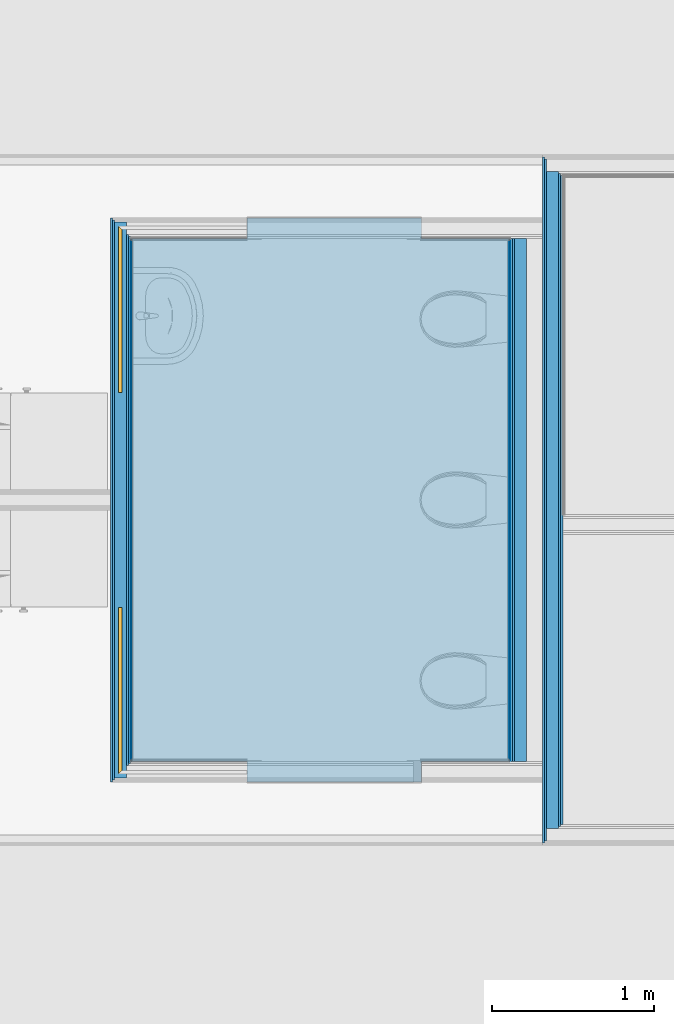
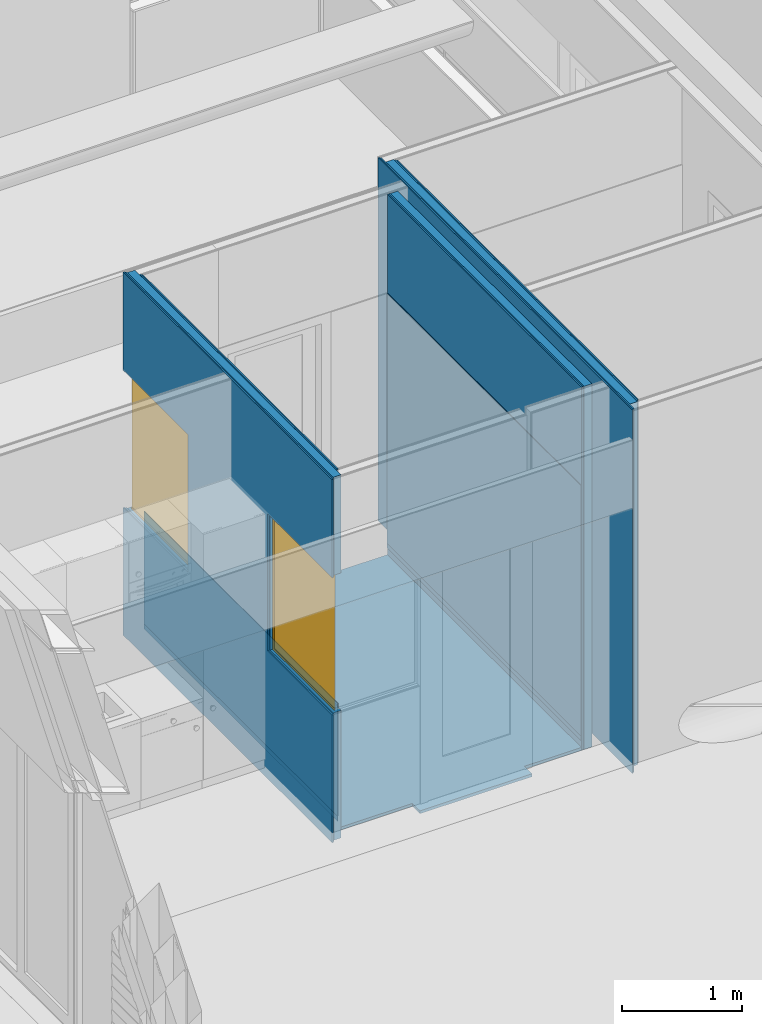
# One storey, part 54 of 165: 18 building element parts, 2 doors, 2 openings, 6 elements without a shape of their own.
"""IFC2X3 building model written with IfcOpenShell, lengths in millimetres."""

from ifc_helpers import new_model, entity, si_unit, converted_unit, derived_unit, money_unit, direction, frame, origin_with_axes, place, context, subcontext, project, spatial, open_shell, faceted_brep, surface_model, material, type_object, element, fill, aggregate, save


model = new_model("IFC2X3")

# Units and contexts
model_context = context("Model", 3, precision=0.01, world=origin_with_axes(), true_north=direction((0.0, 1.0)))
body_context = subcontext(model_context, "Body", "Model", "MODEL_VIEW")
ifc_project = project(units=[si_unit("LENGTHUNIT", "METRE", prefix="MILLI"), si_unit("AREAUNIT", "SQUARE_METRE"), si_unit("VOLUMEUNIT", "CUBIC_METRE"), converted_unit("PLANEANGLEUNIT", "DEGREE", entity("IfcPlaneAngleMeasure", 0.0174532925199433), si_unit("PLANEANGLEUNIT", "RADIAN"), dimensions=[0, 0, 0, 0, 0, 0, 0]), money_unit("EUR"), converted_unit("TIMEUNIT", "Year", entity("IfcTimeMeasure", 31556926.0), si_unit("TIMEUNIT", "SECOND"), dimensions=[0, 0, 1, 0, 0, 0, 0]), si_unit("MASSUNIT", "GRAM", prefix="KILO"), si_unit("THERMODYNAMICTEMPERATUREUNIT", "DEGREE_CELSIUS"), si_unit("LUMINOUSINTENSITYUNIT", "LUMEN"), si_unit("ENERGYUNIT", "JOULE", prefix="MEGA"), derived_unit("THERMALCONDUCTANCEUNIT", [(si_unit("POWERUNIT", "WATT"), 1), (si_unit("LENGTHUNIT", "METRE"), -1), (si_unit("THERMODYNAMICTEMPERATUREUNIT", "KELVIN"), -1)]), derived_unit("SPECIFICHEATCAPACITYUNIT", [(si_unit("ENERGYUNIT", "JOULE"), 1), (si_unit("MASSUNIT", "GRAM", prefix="KILO"), -1), (si_unit("THERMODYNAMICTEMPERATUREUNIT", "KELVIN"), -1)]), derived_unit("MASSDENSITYUNIT", [(si_unit("MASSUNIT", "GRAM", prefix="KILO"), 1), (si_unit("VOLUMEUNIT", "CUBIC_METRE"), -1)])], contexts=[model_context])

# Site, building, storey
site_placement = place(None, origin_with_axes())
site = spatial("IfcSite", under=ifc_project, at=site_placement, Name="Site", CompositionType="ELEMENT")
building_placement = place(site_placement, origin_with_axes())
building = spatial("IfcBuilding", under=site, at=building_placement, Name="Naam gebouw", CompositionType="ELEMENT")
storey_placement = place(building_placement, origin_with_axes())
storey = spatial("IfcBuildingStorey", under=building, at=storey_placement, Name="Begane grond", CompositionType="ELEMENT", Elevation=0.0)

# Door
door_style = type_object("IfcDoorStyle", Name="R1 26", ConstructionType="NOTDEFINED", OperationType="SINGLE_SWING_RIGHT", ParameterTakesPrecedence=False, Sizeable=False)
proxy_2_placement = place(storey_placement, frame((3250.000077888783, 13115.00069798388, -100.0), z_axis=(0.0, 0.0, 1.0), x_axis=(-4.56279063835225e-06, -0.9999999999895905, 0.0)))
opening_2_placement = place(proxy_2_placement, frame((2915.000535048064, 0.0, 1300.0), z_axis=(0.0, 0.0, 1.0), x_axis=(1.0, 0.0, 0.0)))
door_1_placement = place(opening_2_placement, frame((505.0000000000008, 0.0, 0.0), z_axis=(0.0, 0.0, 1.0), x_axis=(-1.0, 0.0, 0.0)))
door_1 = element("IfcDoor", 1, at=door_1_placement, inside=storey, type_object=door_style, Name="_C.03", ObjectType="DOOR", OverallHeight=1400.0, OverallWidth=1010.0, context=body_context, shape_type="SurfaceModel", body=[
    faceted_brep([(989.9999999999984, -69.99999999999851, 1380.0), (1009.999999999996, -69.99999999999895, 1380.0), (1009.999999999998, -49.99999999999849, 1380.0), (989.9999999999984, -49.99999999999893, 1380.0), (989.9999999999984, -69.99999999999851, 20.00000000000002), (1009.999999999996, -69.99999999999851, 20.00000000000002), (1009.999999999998, -49.99999999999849, 20.00000000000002), (989.9999999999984, -49.99999999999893, 20.00000000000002)], [[[0, 1, 2, 3]], [[0, 4, 5, 1]], [[1, 5, 6, 2]], [[3, 2, 6, 7]], [[4, 0, 3, 7]], [[5, 4, 7, 6]]]),
    faceted_brep([(-20.00000000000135, -49.99999999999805, 0.0), (0.0, -69.99999999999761, 0.0), (0.0, -69.99999999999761, 20.00000000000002), (-20.00000000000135, -49.99999999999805, 20.00000000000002), (1009.999999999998, -49.99999999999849, 0.0), (1009.999999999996, -69.99999999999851, 0.0), (989.9999999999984, -69.99999999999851, 20.00000000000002), (1009.999999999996, -69.99999999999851, 20.00000000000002), (989.9999999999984, -49.99999999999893, 20.00000000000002), (1009.999999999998, -49.99999999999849, 20.00000000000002)], [[[0, 1, 2, 3]], [[1, 0, 4, 5]], [[6, 2, 1, 5, 7]], [[2, 6, 8, 3]], [[0, 3, 8, 9, 4]], [[7, 5, 4, 9]], [[8, 6, 7, 9]]]),
    faceted_brep([(-20.00000000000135, -49.99999999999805, 1400.0), (-20.00000000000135, -49.99999999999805, 1380.0), (0.0, -69.99999999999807, 1380.0), (0.0, -69.99999999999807, 1400.0), (1009.999999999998, -49.99999999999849, 1400.0), (1009.999999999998, -49.99999999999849, 1380.0), (989.9999999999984, -49.99999999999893, 1380.0), (989.9999999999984, -69.99999999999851, 1380.0), (1009.999999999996, -69.99999999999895, 1380.0), (1009.999999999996, -69.99999999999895, 1400.0)], [[[0, 1, 2, 3]], [[1, 0, 4, 5, 6]], [[7, 2, 1, 6]], [[2, 7, 8, 9, 3]], [[0, 3, 9, 4]], [[9, 8, 5, 4]], [[8, 7, 6, 5]]]),
    surface_model("IfcShellBasedSurfaceModel", [(989.9999999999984, -64.99999999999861, 20.00000000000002), (989.9999999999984, -64.99999999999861, 1380.0), (-5.000000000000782, -64.99999999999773, 1380.0), (-5.000000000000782, -64.99999999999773, 20.00000000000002)], [open_shell([[[0, 1, 2, 3]]])]),
    surface_model("IfcShellBasedSurfaceModel", [(989.9999999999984, -54.99999999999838, 20.00000000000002), (-15.00000000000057, -54.99999999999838, 20.00000000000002), (-15.00000000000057, -54.99999999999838, 1380.0), (989.9999999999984, -54.99999999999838, 1380.0)], [open_shell([[[0, 1, 2, 3]]])]),
])

opening_1_placement = place(proxy_2_placement, frame((574.9994649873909, 0.0, 1300.0), z_axis=(0.0, 0.0, 1.0), x_axis=(1.0, 0.0, 0.0)))
door_2_placement = place(opening_1_placement, frame((504.999999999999, 0.0, 0.0), z_axis=(0.0, 0.0, 1.0), x_axis=(-1.0, 0.0, 0.0)))
door_2 = element("IfcDoor", 2, at=door_2_placement, inside=storey, type_object=door_style, Name="_C.03", ObjectType="DOOR", OverallHeight=1400.0, OverallWidth=1010.0, context=body_context, shape_type="SurfaceModel", body=[
    faceted_brep([(19.99999999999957, -69.99999999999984, 1380.0), (19.99999999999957, -49.99999999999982, 1380.0), (0.0, -49.99999999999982, 1380.0), (0.0, -69.99999999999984, 1380.0), (19.99999999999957, -69.99999999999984, 20.00000000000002), (19.99999999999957, -49.99999999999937, 20.00000000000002), (0.0, -49.99999999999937, 20.00000000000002), (0.0, -69.9999999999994, 20.00000000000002)], [[[0, 1, 2, 3]], [[4, 5, 1, 0]], [[1, 5, 6, 2]], [[3, 2, 6, 7]], [[0, 3, 7, 4]], [[7, 6, 5, 4]]]),
    faceted_brep([(0.0, -49.99999999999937, 20.00000000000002), (0.0, -69.9999999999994, 20.00000000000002), (19.99999999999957, -69.99999999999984, 20.00000000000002), (19.99999999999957, -49.99999999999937, 20.00000000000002), (0.0, -69.9999999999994, 0.0), (0.0, -49.99999999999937, 0.0), (1009.999999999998, -70.00000000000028, 0.0), (1009.999999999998, -70.00000000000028, 20.00000000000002), (1029.999999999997, -49.99999999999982, 20.00000000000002), (1029.999999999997, -49.99999999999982, 0.0)], [[[0, 1, 2, 3]], [[4, 1, 0, 5]], [[1, 4, 6, 7, 2]], [[2, 7, 8, 3]], [[5, 0, 3, 8, 9]], [[6, 4, 5, 9]], [[7, 6, 9, 8]]]),
    faceted_brep([(0.0, -49.99999999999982, 1380.0), (19.99999999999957, -49.99999999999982, 1380.0), (19.99999999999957, -69.99999999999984, 1380.0), (0.0, -69.99999999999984, 1380.0), (0.0, -49.99999999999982, 1400.0), (1029.999999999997, -50.00000000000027, 1400.0), (1029.999999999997, -50.00000000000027, 1380.0), (1010.0, -70.00000000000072, 1380.0), (0.0, -69.99999999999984, 1400.0), (1010.0, -70.00000000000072, 1400.0)], [[[0, 1, 2, 3]], [[0, 4, 5, 6, 1]], [[7, 2, 1, 6]], [[8, 3, 2, 7, 9]], [[3, 8, 4, 0]], [[4, 8, 9, 5]], [[9, 7, 6, 5]]]),
    surface_model("IfcShellBasedSurfaceModel", [(19.99999999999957, -64.9999999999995, 20.00000000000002), (1014.999999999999, -65.0000000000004, 20.00000000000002), (1014.999999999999, -65.0000000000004, 1380.0), (19.99999999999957, -64.99999999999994, 1380.0)], [open_shell([[[0, 1, 2, 3]]])]),
    surface_model("IfcShellBasedSurfaceModel", [(19.99999999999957, -54.99999999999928, 20.00000000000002), (19.99999999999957, -54.99999999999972, 1380.0), (1025.0, -55.00000000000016, 1380.0), (1025.0, -55.00000000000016, 20.00000000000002)], [open_shell([[[0, 1, 2, 3]]])]),
])

# Proxy, building element parts
building_element_proxy_type_1 = type_object("IfcBuildingElementProxyType", Name="22 Metal stud 125 gips 125", PredefinedType="NOTDEFINED")
proxy_1_placement = place(storey_placement, frame((5924.999597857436, 9234.99995614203, -100.0), z_axis=(0.0, 0.0, 1.0), x_axis=(0.0, 1.0, 0.0)))
proxy_1 = element("IfcBuildingElementProxy", 3, at=proxy_1_placement, inside=storey, type_object=building_element_proxy_type_1, Name="_Wand-x")
ifc_material_1 = material(Name="Gipsplaat")
building_element_part_1_placement = place(proxy_1_placement, origin_with_axes())
building_element_part_1 = element("IfcBuildingElementPart", 4, at=building_element_part_1_placement, material=ifc_material_1, Name="Gipsplaat", context=body_context, shape_type="Brep", body=[
    faceted_brep([(4257.50031846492, 0.0, 3700.0), (12.49999999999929, 0.0, 3700.0), (12.50000103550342, -12.50000000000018, 3700.0), (4257.500317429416, -12.50000000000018, 3700.0), (4257.50031846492, 0.0, 0.0), (12.49999999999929, 0.0, 0.0), (12.50000103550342, -12.50000000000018, 0.0), (4257.500317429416, -12.50000000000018, 0.0)], [[[0, 1, 2, 3]], [[4, 5, 1, 0]], [[2, 1, 5, 6]], [[3, 2, 6, 7]], [[3, 7, 4, 0]], [[7, 6, 5, 4]]]),
])
building_element_part_2_placement = place(proxy_1_placement, origin_with_axes())
building_element_part_2 = element("IfcBuildingElementPart", 5, at=building_element_part_2_placement, material=ifc_material_1, Name="Gipsplaat", context=body_context, shape_type="Brep", body=[
    faceted_brep([(4157.500310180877, -99.99999999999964, 3700.0), (112.5000082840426, -99.99999999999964, 3700.0), (112.5000093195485, -112.4999999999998, 3700.0), (4157.500309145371, -112.4999999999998, 3700.0), (4157.500310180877, -99.99999999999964, 0.0), (112.5000082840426, -99.99999999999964, 0.0), (112.5000093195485, -112.4999999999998, 0.0), (4157.500309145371, -112.4999999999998, 0.0)], [[[0, 1, 2, 3]], [[4, 5, 1, 0]], [[2, 1, 5, 6]], [[3, 2, 6, 7]], [[3, 7, 4, 0]], [[7, 6, 5, 4]]]),
])
building_element_part_3_placement = place(proxy_1_placement, origin_with_axes())
building_element_part_3 = element("IfcBuildingElementPart", 6, at=building_element_part_3_placement, material=ifc_material_1, Name="Gipsplaat", context=body_context, shape_type="Brep", body=[
    faceted_brep([(4245.000317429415, -12.50000000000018, 3700.0), (25.00000103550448, -12.50000000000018, 3700.0), (25.00000207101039, -24.99999999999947, 3700.0), (4245.000316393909, -24.99999999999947, 3700.0), (4245.000317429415, -12.50000000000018, 0.0), (25.00000103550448, -12.50000000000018, 0.0), (25.00000207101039, -25.00000000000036, 0.0), (4245.000316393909, -25.00000000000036, 0.0)], [[[0, 1, 2, 3]], [[4, 5, 1, 0]], [[2, 1, 5, 6]], [[3, 2, 6, 7]], [[3, 7, 4, 0]], [[7, 6, 5, 4]]]),
])
ifc_material_2 = material(Name="ALG - LICHTE SCHEIDINGSWAND")
building_element_part_4_placement = place(proxy_1_placement, origin_with_axes())
building_element_part_4 = element("IfcBuildingElementPart", 7, at=building_element_part_4_placement, material=ifc_material_2, Name="ALG - LICHTE SCHEIDINGSWAND", context=body_context, shape_type="Brep", body=[
    faceted_brep([(4170.000316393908, -24.99999999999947, 3700.0), (100.0000020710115, -24.99999999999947, 3700.0), (100.0000082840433, -99.99999999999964, 3700.0), (4170.000310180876, -99.99999999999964, 3700.0), (4170.000316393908, -25.00000000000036, 0.0), (100.0000020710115, -25.00000000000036, 0.0), (100.0000082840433, -99.99999999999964, 0.0), (4170.000310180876, -99.99999999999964, 0.0)], [[[0, 1, 2, 3]], [[4, 5, 1, 0]], [[2, 1, 5, 6]], [[3, 2, 6, 7]], [[3, 7, 4, 0]], [[7, 6, 5, 4]]]),
])
building_element_part_5_placement = place(proxy_1_placement, origin_with_axes())
building_element_part_5 = element("IfcBuildingElementPart", 8, at=building_element_part_5_placement, material=ifc_material_1, Name="Gipsplaat", context=body_context, shape_type="Brep", body=[
    faceted_brep([(4145.00030914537, -112.4999999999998, 3700.0), (125.0000093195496, -112.4999999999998, 3700.0), (125.0000103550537, -125.0, 3700.0), (4145.000308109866, -125.0, 3700.0), (4145.00030914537, -112.4999999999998, 0.0), (125.0000093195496, -112.4999999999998, 0.0), (125.0000103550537, -125.0, 0.0), (4145.000308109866, -125.0, 0.0)], [[[0, 1, 2, 3]], [[4, 5, 1, 0]], [[2, 1, 5, 6]], [[3, 2, 6, 7]], [[3, 7, 4, 0]], [[7, 6, 5, 4]]]),
])
aggregate(proxy_1, [building_element_part_1, building_element_part_2, building_element_part_3, building_element_part_4, building_element_part_5])

# Proxy, opening
proxy_2 = element("IfcBuildingElementProxy", 9, at=proxy_2_placement, inside=storey, type_object=building_element_proxy_type_1, Name="_Wand-x")
opening_1 = element("IfcOpeningElement", 10, at=opening_1_placement, cuts=proxy_2, Name="_C.03", context=body_context, shape_type="Brep", body=[
    faceted_brep([(504.999999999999, 49.99999999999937, 1400.0), (-524.9996852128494, 49.99999999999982, 1400.0), (-574.9999999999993, -0.0005350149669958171, 1400.0), (-575.000000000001, -1.015924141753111, 1400.0), (504.999999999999, -1.015924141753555, 1400.0), (504.999999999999, 126.015924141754, 1400.0), (-448.9840958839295, 126.0159241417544, 1400.0), (-448.9840958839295, 126.0159241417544, 0.0), (-524.9996852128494, 49.99999999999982, 0.0), (-574.9999999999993, -0.0005350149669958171, 0.0), (-575.000000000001, -1.015924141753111, 0.0), (504.999999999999, -1.015924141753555, 0.0), (504.999999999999, 49.99999999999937, 0.0), (504.999999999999, 126.015924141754, 0.0)], [[[0, 1, 2, 3, 4]], [[1, 0, 5, 6]], [[2, 1, 6, 7, 8, 9]], [[9, 10, 3, 2]], [[3, 10, 11, 4]], [[12, 0, 4, 11]], [[0, 12, 13, 5]], [[5, 13, 7, 6]], [[12, 8, 7, 13]], [[8, 12, 11, 10, 9]]]),
])

fill(opening_1, door_2)

# Opening
opening_2 = element("IfcOpeningElement", 11, at=opening_2_placement, cuts=proxy_2, Name="_C.03", context=body_context, shape_type="Brep", body=[
    faceted_brep([(524.9997729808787, 49.99999999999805, 1400.0), (-504.999999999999, 49.99999999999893, 1400.0), (-504.999999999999, -1.015924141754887, 1400.0), (575.000000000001, -1.015924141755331, 1400.0), (574.9999999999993, -3.396325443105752e-06, 1400.0), (448.9835088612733, 126.0159241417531, 1400.0), (-504.999999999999, 126.015924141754, 1400.0), (-504.999999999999, 49.99999999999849, 0.0), (-504.999999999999, -1.015924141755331, 0.0), (575.000000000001, -1.015924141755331, 0.0), (574.9999999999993, -3.396325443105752e-06, 0.0), (524.9997729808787, 49.99999999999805, 0.0), (448.9835088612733, 126.0159241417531, 0.0), (-504.999999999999, 126.0159241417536, 0.0)], [[[0, 1, 2, 3, 4]], [[1, 0, 5, 6]], [[1, 7, 8, 2]], [[2, 8, 9, 3]], [[4, 3, 9, 10]], [[4, 10, 11, 12, 5, 0]], [[12, 13, 6, 5]], [[7, 1, 6, 13]], [[7, 11, 10, 9, 8]], [[11, 7, 13, 12]]]),
])

fill(opening_2, door_1)

# Building element part
building_element_part_6_placement = place(proxy_2_placement, origin_with_axes())
building_element_part_6 = element("IfcBuildingElementPart", 12, at=building_element_part_6_placement, material=ifc_material_1, Name="Gipsplaat", context=body_context, shape_type="Brep", body=[
    faceted_brep([(1079.99946498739, 124.9999895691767, 1300.0), (1079.99946498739, 124.9999895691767, 2700.0), (124.9994390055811, 124.9999895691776, 2700.0), (112.4994494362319, 125.0, 2700.0), (112.4994494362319, 125.0, 3700.0), (3377.499972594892, 124.9999999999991, 3700.0), (3377.499972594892, 124.9999999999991, 2700.0), (3364.999983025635, 124.9999895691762, 2700.0), (2410.000535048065, 124.9999895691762, 2700.0), (2410.000535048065, 124.9999895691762, 1300.0), (3364.999983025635, 124.9999895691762, 1300.0), (3377.499972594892, 124.9999999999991, 1300.0), (3377.499972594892, 124.9999999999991, 0.0), (112.4994494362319, 125.0, 0.0), (112.4994494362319, 125.0, 1300.0), (124.9994390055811, 124.9999895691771, 1300.0), (1079.99946498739, 112.4999999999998, 1300.0), (1079.99946498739, 112.5000000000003, 2700.0), (112.4995044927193, 112.4999999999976, 2700.0), (112.4995044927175, 112.4999999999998, 3700.0), (3377.500028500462, 112.4999999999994, 3700.0), (3377.500028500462, 112.4999999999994, 2700.0), (2410.000535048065, 112.4999999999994, 2700.0), (2410.000535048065, 112.4999999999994, 1300.0), (3377.500028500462, 112.4999999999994, 1300.0), (3377.500028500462, 112.4999999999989, 0.0), (112.4995044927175, 112.4999999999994, 0.0), (112.4995044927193, 112.4999999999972, 1300.0)], [[[0, 1, 2, 3, 4, 5, 6, 7, 8, 9, 10, 11, 12, 13, 14, 15]], [[1, 0, 16, 17]], [[2, 1, 17, 18, 3]], [[3, 18, 19, 4]], [[20, 5, 4, 19]], [[21, 6, 5, 20]], [[21, 22, 8, 7, 6]], [[9, 8, 22, 23]], [[10, 9, 23, 24, 11]], [[11, 24, 25, 12]], [[12, 25, 26, 13]], [[27, 14, 13, 26]], [[27, 16, 0, 15, 14]], [[16, 27, 26, 25, 24, 23, 22, 21, 20, 19, 18, 17]]]),
])

building_element_part_7_placement = place(proxy_2_placement, origin_with_axes())
building_element_part_7 = element("IfcBuildingElementPart", 13, at=building_element_part_7_placement, material=ifc_material_2, Name="ALG - LICHTE SCHEIDINGSWAND", context=body_context, shape_type="Brep", body=[
    faceted_brep([(1079.99946498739, 99.99999999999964, 1300.0), (1079.99946498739, 99.99999999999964, 2700.0), (49.99955954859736, 100.0000000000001, 2700.0), (24.99955954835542, 100.0000000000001, 2700.0), (24.99955954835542, 100.0000000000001, 3700.0), (3465.000084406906, 99.99999999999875, 3700.0), (3465.000084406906, 99.99999999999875, 2700.0), (3440.000075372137, 99.9999999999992, 2700.0), (2410.000535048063, 99.99999999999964, 2700.0), (2410.000535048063, 99.9999999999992, 1300.0), (3440.000075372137, 99.99999999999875, 1300.0), (3465.000084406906, 99.99999999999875, 1300.0), (3465.000084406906, 99.99999999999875, 0.0), (24.99955954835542, 100.0000000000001, 0.0), (24.99955954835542, 100.0000000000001, 1300.0), (49.99955954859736, 100.0000000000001, 1300.0), (1079.99946498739, 49.99999999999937, 1300.0), (1079.99946498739, 49.99999999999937, 2700.0), (49.99977977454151, 49.99999999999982, 2700.0), (1079.99946498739, 24.99999999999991, 2700.0), (24.99988988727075, 24.99999999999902, 2700.0), (24.99988988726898, 25.00000000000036, 3700.0), (3465.000419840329, 24.99999999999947, 3700.0), (3465.000419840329, 24.99999999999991, 2700.0), (2410.000535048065, 24.99999999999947, 2700.0), (2410.000535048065, 49.99999999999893, 2700.0), (3440.000308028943, 49.99999999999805, 2700.0), (2410.000535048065, 49.99999999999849, 1300.0), (3440.000308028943, 49.99999999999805, 1300.0), (2410.000535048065, 24.99999999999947, 1300.0), (3465.000419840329, 25.00000000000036, 1300.0), (3465.000419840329, 24.99999999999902, 0.0), (24.99988988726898, 24.99999999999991, 0.0), (24.99988988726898, 24.99999999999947, 1300.0), (1079.99946498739, 24.99999999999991, 1300.0), (49.99977977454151, 49.99999999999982, 1300.0)], [[[0, 1, 2, 3, 4, 5, 6, 7, 8, 9, 10, 11, 12, 13, 14, 15]], [[1, 0, 16, 17]], [[2, 1, 17, 18]], [[18, 17, 19, 20, 3, 2]], [[3, 20, 21, 4]], [[22, 5, 4, 21]], [[23, 6, 5, 22]], [[23, 24, 25, 26, 7, 6]], [[26, 25, 8, 7]], [[9, 8, 25, 27]], [[9, 27, 28, 10]], [[28, 27, 29, 30, 11, 10]], [[11, 30, 31, 12]], [[12, 31, 32, 13]], [[33, 14, 13, 32]], [[33, 34, 16, 35, 15, 14]], [[35, 16, 0, 15]], [[34, 19, 17, 16]], [[34, 33, 32, 31, 30, 29, 24, 23, 22, 21, 20, 19]], [[24, 29, 27, 25]]]),
])

building_element_part_8_placement = place(proxy_2_placement, origin_with_axes())
building_element_part_8 = element("IfcBuildingElementPart", 14, at=building_element_part_8_placement, material=ifc_material_1, Name="Gipsplaat", context=body_context, shape_type="Brep", body=[
    faceted_brep([(1079.99946498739, 24.99999999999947, 1300.0), (1079.99946498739, 24.99999999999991, 2700.0), (12.49988988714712, 25.00000000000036, 2700.0), (12.49988988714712, 25.00000000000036, 3700.0), (3477.500419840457, 24.99999999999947, 3700.0), (3477.500419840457, 24.99999999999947, 2700.0), (2410.000535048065, 24.99999999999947, 2700.0), (2410.000535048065, 24.99999999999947, 1300.0), (3477.500419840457, 24.99999999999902, 1300.0), (3477.500419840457, 24.99999999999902, 0.0), (12.49988988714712, 24.99999999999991, 0.0), (12.49988988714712, 24.99999999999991, 1300.0), (1079.999464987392, 12.49999999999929, 1300.0), (1079.999464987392, 12.49999999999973, 2700.0), (12.49994494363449, 12.49999999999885, 2700.0), (12.49994494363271, 12.50000000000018, 3700.0), (3477.500475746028, 12.49999999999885, 3700.0), (3477.500475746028, 12.49999999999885, 2700.0), (2410.000535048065, 12.49999999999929, 2700.0), (2410.000535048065, 12.49999999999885, 1300.0), (3477.500475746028, 12.49999999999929, 1300.0), (3477.500475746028, 12.49999999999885, 0.0), (12.49994494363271, 12.50000000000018, 0.0), (12.49994494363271, 12.49999999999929, 1300.0)], [[[0, 1, 2, 3, 4, 5, 6, 7, 8, 9, 10, 11]], [[1, 0, 12, 13]], [[2, 1, 13, 14]], [[2, 14, 15, 3]], [[16, 4, 3, 15]], [[17, 5, 4, 16]], [[17, 18, 6, 5]], [[7, 6, 18, 19]], [[7, 19, 20, 8]], [[8, 20, 21, 9]], [[9, 21, 22, 10]], [[23, 11, 10, 22]], [[23, 12, 0, 11]], [[12, 23, 22, 21, 20, 19, 18, 17, 16, 15, 14, 13]]]),
])

building_element_part_9_placement = place(proxy_2_placement, origin_with_axes())
building_element_part_9 = element("IfcBuildingElementPart", 15, at=building_element_part_9_placement, material=ifc_material_1, Name="Gipsplaat", context=body_context, shape_type="Brep", body=[
    faceted_brep([(1079.99946498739, 112.4999999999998, 1300.0), (1079.99946498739, 112.4999999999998, 2700.0), (99.99950449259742, 112.5000000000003, 2700.0), (99.99950449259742, 112.5000000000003, 3700.0), (3390.000028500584, 112.4999999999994, 3700.0), (3390.000028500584, 112.4999999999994, 2700.0), (2410.000535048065, 112.4999999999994, 2700.0), (2410.000535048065, 112.4999999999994, 1300.0), (3390.000028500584, 112.4999999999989, 1300.0), (3390.000028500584, 112.4999999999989, 0.0), (99.99950449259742, 112.4999999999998, 0.0), (99.99950449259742, 112.4999999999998, 1300.0), (1079.99946498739, 99.99999999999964, 1300.0), (1079.99946498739, 99.99999999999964, 2700.0), (99.9995595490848, 99.99999999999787, 2700.0), (99.99955954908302, 100.0000000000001, 3700.0), (3390.000084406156, 99.99999999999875, 3700.0), (3390.000084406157, 100.0000000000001, 2700.0), (2410.000535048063, 99.9999999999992, 2700.0), (2410.000535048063, 99.99999999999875, 1300.0), (3390.000084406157, 100.0000000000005, 1300.0), (3390.000084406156, 99.99999999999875, 0.0), (99.99955954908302, 100.0000000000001, 0.0), (99.9995595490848, 99.99999999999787, 1300.0)], [[[0, 1, 2, 3, 4, 5, 6, 7, 8, 9, 10, 11]], [[1, 0, 12, 13]], [[2, 1, 13, 14]], [[2, 14, 15, 3]], [[16, 4, 3, 15]], [[17, 5, 4, 16]], [[17, 18, 6, 5]], [[7, 6, 18, 19]], [[7, 19, 20, 8]], [[8, 20, 21, 9]], [[9, 21, 22, 10]], [[23, 11, 10, 22]], [[23, 12, 0, 11]], [[12, 23, 22, 21, 20, 19, 18, 17, 16, 15, 14, 13]]]),
])

building_element_part_10_placement = place(proxy_2_placement, origin_with_axes())
building_element_part_10 = element("IfcBuildingElementPart", 16, at=building_element_part_10_placement, material=ifc_material_1, Name="Gipsplaat", context=body_context, shape_type="Brep", body=[
    faceted_brep([(1079.999464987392, 12.49999999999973, 1300.0), (1079.999464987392, 12.49999999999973, 2700.0), (-5.505648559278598e-05, 12.50000000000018, 2700.0), (-5.505648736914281e-05, 12.50000000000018, 3700.0), (3490.00047574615, 12.49999999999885, 3700.0), (3490.000474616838, 12.49999999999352, 2700.0), (2410.000535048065, 12.49999999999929, 2700.0), (2410.000535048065, 12.49999999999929, 1300.0), (3490.000474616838, 12.49999999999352, 1300.0), (3490.00047574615, 12.49999999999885, 0.0), (-5.505648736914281e-05, 12.50000000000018, 0.0), (-5.505648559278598e-05, 12.50000000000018, 1300.0), (1079.99946498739, 0.0, 1300.0), (1079.99946498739, 0.0, 2700.0), (0.0, 0.0, 2700.0), (0.0, 0.0, 3700.0), (3490.000531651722, 0.0, 3700.0), (3490.000531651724, 0.0, 2700.0), (2410.000535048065, 0.0, 2700.0), (2410.000535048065, 0.0, 1300.0), (3490.000531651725, 0.0, 1300.0), (3490.000531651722, 0.0, 0.0), (0.0, 0.0, 0.0), (0.0, 0.0, 1300.0)], [[[0, 1, 2, 3, 4, 5, 6, 7, 8, 9, 10, 11]], [[1, 0, 12, 13]], [[2, 1, 13, 14]], [[2, 14, 15, 3]], [[16, 4, 3, 15]], [[17, 5, 4, 16]], [[17, 18, 6, 5]], [[7, 6, 18, 19]], [[7, 19, 20, 8]], [[8, 20, 21, 9]], [[9, 21, 22, 10]], [[23, 11, 10, 22]], [[23, 12, 0, 11]], [[12, 23, 22, 21, 20, 19, 18, 17, 16, 15, 14, 13]]]),
])

aggregate(proxy_2, [building_element_part_6, building_element_part_7, building_element_part_8, building_element_part_9, building_element_part_10])

# Proxy, building element parts
building_element_proxy_type_2 = type_object("IfcBuildingElementProxyType", Name="22 Metal stud 100 voorzetwand 100", PredefinedType="NOTDEFINED")
proxy_3_placement = place(storey_placement, frame((5724.983719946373, 13115.0003085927, -100.0), z_axis=(0.0, 0.0, 1.0), x_axis=(-1.582717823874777e-07, -0.9999999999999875, 0.0)))
proxy_3 = element("IfcBuildingElementProxy", 17, at=proxy_3_placement, inside=storey, type_object=building_element_proxy_type_2, Name="_Wand-x")
building_element_part_11_placement = place(proxy_3_placement, origin_with_axes())
building_element_part_11 = element("IfcBuildingElementPart", 18, at=building_element_part_11_placement, material=ifc_material_1, Name="Gipsplaat", context=body_context, shape_type="Brep", body=[
    faceted_brep([(3365.000364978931, 12.50000000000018, 0.0), (125.0000023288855, 12.50000000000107, 0.0), (125.0000023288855, 25.00000000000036, 0.0), (3365.000364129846, 25.00000000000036, 0.0), (3365.000364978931, 12.50000000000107, 3700.0), (125.0000023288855, 12.50000000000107, 3700.0), (125.0000023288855, 25.00000000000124, 3700.0), (3365.000364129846, 25.00000000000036, 3700.0)], [[[0, 1, 2, 3]], [[4, 5, 1, 0]], [[2, 1, 5, 6]], [[3, 2, 6, 7]], [[3, 7, 4, 0]], [[7, 6, 5, 4]]]),
])
building_element_part_12_placement = place(proxy_3_placement, origin_with_axes())
building_element_part_12 = element("IfcBuildingElementPart", 19, at=building_element_part_12_placement, material=ifc_material_2, Name="ALG - LICHTE SCHEIDINGSWAND", context=body_context, shape_type="Brep", body=[
    faceted_brep([(3365.000364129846, 25.00000000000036, 0.0), (125.0000023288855, 25.00000000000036, 0.0), (125.0000023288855, 100.0000000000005, 0.0), (3365.000359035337, 100.0000000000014, 0.0), (3365.000364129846, 25.00000000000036, 3700.0), (125.0000023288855, 25.00000000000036, 3700.0), (125.0000023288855, 100.0000000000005, 3700.0), (3365.000359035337, 100.0000000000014, 3700.0)], [[[0, 1, 2, 3]], [[4, 5, 1, 0]], [[2, 1, 5, 6]], [[3, 2, 6, 7]], [[3, 7, 4, 0]], [[7, 6, 5, 4]]]),
])
building_element_part_13_placement = place(proxy_3_placement, origin_with_axes())
building_element_part_13 = element("IfcBuildingElementPart", 20, at=building_element_part_13_placement, material=ifc_material_1, Name="Gipsplaat", context=body_context, shape_type="Brep", body=[
    faceted_brep([(3365.000365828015, 0.0, 0.0), (125.0000023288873, 0.0, 0.0), (125.0000023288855, 12.50000000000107, 0.0), (3365.000364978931, 12.50000000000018, 0.0), (3365.000365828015, 0.0, 3700.0), (125.0000023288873, 0.0, 3700.0), (125.0000023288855, 12.50000000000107, 3700.0), (3365.000364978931, 12.50000000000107, 3700.0)], [[[0, 1, 2, 3]], [[4, 5, 1, 0]], [[2, 1, 5, 6]], [[3, 2, 6, 7]], [[3, 7, 4, 0]], [[7, 6, 5, 4]]]),
])
aggregate(proxy_3, [building_element_part_11, building_element_part_12, building_element_part_13])

# Proxy, building element part
building_element_proxy_type_3 = type_object("IfcBuildingElementProxyType", Name="42 Tegelwerk 2600+ 12 x 2600", PredefinedType="NOTDEFINED")
proxy_4_placement = place(storey_placement, frame((5704.983696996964, 12970.00030942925, 0.0), z_axis=(0.0, 0.0, 1.0), x_axis=(-1.582717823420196e-07, -0.9999999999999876, 0.0)))
proxy_4 = element("IfcBuildingElementProxy", 21, at=proxy_4_placement, inside=storey, type_object=building_element_proxy_type_3, Name="_Wand-x")
ifc_material_3 = material(Name="21 STO lijmlaag")
building_element_part_14_placement = place(proxy_4_placement, origin_with_axes())
building_element_part_14 = element("IfcBuildingElementPart", 22, at=building_element_part_14_placement, material=ifc_material_3, Name="21 STO lijmlaag", context=body_context, shape_type="Brep", body=[
    faceted_brep([(-13.0000044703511, 19.99999552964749, 50.00000000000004), (-13.0000044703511, 19.99999552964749, 2600.0), (3220.000352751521, 19.99999552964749, 2600.0), (3220.000352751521, 19.99999552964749, 50.00000596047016), (-13.0000044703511, 13.00000447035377, 2600.0), (-13.00000447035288, 14.99999850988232, 50.00000000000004), (-13.0000044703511, 13.00000447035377, 50.00000000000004), (3220.000353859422, 13.00000447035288, 2600.0), (3220.000353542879, 14.99999850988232, 50.00000596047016), (3220.000353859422, 13.00000447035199, 50.00000596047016)], [[[0, 1, 2, 3]], [[4, 1, 0, 5, 6]], [[1, 4, 7, 2]], [[8, 3, 2, 7, 9]], [[5, 0, 3, 8]], [[6, 5, 8, 9]], [[4, 6, 9, 7]]]),
])

# Proxy, building element parts
building_element_proxy_type_4 = type_object("IfcBuildingElementProxyType", Name="42 Tegelwerk 1200+ 12 x 1200", PredefinedType="NOTDEFINED")
proxy_5_placement = place(storey_placement, frame((3394.999416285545, 12970.00067503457, 0.0), z_axis=(0.0, 0.0, 1.0), x_axis=(-4.562790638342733e-06, -0.9999999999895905, 0.0)))
proxy_5 = element("IfcBuildingElementProxy", 23, at=proxy_5_placement, inside=storey, type_object=building_element_proxy_type_4, Name="_Wand-x")
ifc_material_4 = material(Name="48 vloeivloer Bolidt")
building_element_part_15_placement = place(proxy_5_placement, origin_with_axes())
building_element_part_15 = element("IfcBuildingElementPart", 24, at=building_element_part_15_placement, material=ifc_material_4, Name="48 vloeivloer Bolidt", context=body_context, shape_type="Brep", body=[
    faceted_brep([(-14.99992722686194, -14.99999329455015, 0.0), (-14.99992722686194, -14.9999932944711, 49.99999999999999), (3220.000592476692, -14.99999329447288, 50.00000000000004), (3220.000592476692, -14.99999329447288, 0.0), (-14.99990520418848, -20.00001117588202, 49.99999999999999), (-14.99990520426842, -19.99999329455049, 0.0), (3220.000615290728, -20.0000111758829, 50.00000000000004), (3220.000615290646, -19.99999329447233, 0.0)], [[[0, 1, 2, 3]], [[4, 1, 0, 5]], [[1, 4, 6, 2]], [[7, 3, 2, 6]], [[5, 0, 3, 7]], [[4, 5, 7, 6]]]),
])
building_element_part_16_placement = place(proxy_5_placement, origin_with_axes())
building_element_part_16 = element("IfcBuildingElementPart", 25, at=building_element_part_16_placement, material=ifc_material_3, Name="21 STO lijmlaag", context=body_context, shape_type="Brep", body=[
    faceted_brep([(-12.99993603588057, -12.99999329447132, 50.00000000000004), (-12.99993603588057, -12.99999329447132, 1200.0), (3220.000592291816, -12.99999329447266, 1200.0), (3220.000583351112, -12.99999329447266, 50.00000000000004), (-12.99990520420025, -20.00000447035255, 1200.0), (-12.99992722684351, -14.99999329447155, 50.00000000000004), (-12.99990520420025, -20.00000447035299, 50.00000000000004), (3220.000624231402, -20.00000447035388, 1200.0), (3220.000592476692, -14.99999329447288, 50.00000000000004), (3220.000615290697, -20.00000447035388, 50.00000000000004)], [[[0, 1, 2, 3]], [[4, 1, 0, 5, 6]], [[1, 4, 7, 2]], [[8, 3, 2, 7, 9]], [[5, 0, 3, 8]], [[6, 5, 8, 9]], [[4, 6, 9, 7]]]),
])
aggregate(proxy_5, [building_element_part_15, building_element_part_16])

# Building element part
building_element_part_17_placement = place(proxy_4_placement, origin_with_axes())
building_element_part_17 = element("IfcBuildingElementPart", 26, at=building_element_part_17_placement, material=ifc_material_4, Name="48 vloeivloer Bolidt", context=body_context, shape_type="Brep", body=[
    faceted_brep([(-14.99999850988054, 19.99998360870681, 0.0), (-14.99999850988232, 19.99998360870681, 50.00000596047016), (3220.000352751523, 19.99998360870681, 50.00000596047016), (3220.000352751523, 19.99998360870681, 0.0), (-14.99999850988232, 14.99999850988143, 50.00000596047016), (-14.99999850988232, 14.99999850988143, 0.0), (3220.000353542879, 14.99999850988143, 50.00000596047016), (3220.000353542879, 14.99999850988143, 0.0)], [[[0, 1, 2, 3]], [[4, 1, 0, 5]], [[1, 4, 6, 2]], [[7, 3, 2, 6]], [[5, 0, 3, 7]], [[4, 5, 7, 6]]]),
])

aggregate(proxy_4, [building_element_part_14, building_element_part_17])

# Slab, building element part
slab_type = type_object("IfcSlabType", Name="43 Zwevende dekvloer 100", PredefinedType="NOTDEFINED")
slab_placement = place(storey_placement, frame((3362.48413533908, 9749.999942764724, 0.0), z_axis=(0.0, 0.0, 1.0), x_axis=(1.0, 0.0, 0.0)))
slab = element("IfcSlab", 27, at=slab_placement, inside=storey, type_object=slab_type, Name="_Vloer-x", PredefinedType="NOTDEFINED")
ifc_material_5 = material(Name="Isolatie - XPS zwevende dekvloer")
building_element_part_18_placement = place(slab_placement, origin_with_axes())
building_element_part_18 = element("IfcBuildingElementPart", 28, at=building_element_part_18_placement, material=ifc_material_5, Name="Isolatie - XPS zwevende dekvloer", context=body_context, shape_type="Brep", body=[
    faceted_brep([(0.0, 0.0, -100.0), (732.4990429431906, 2.252856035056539e-05, -100.0), (732.4990429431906, 2.252856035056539e-05, -70.0), (0.0, 0.0, -70.0), (0.01590435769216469, 3240.000223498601, -100.0), (732.5154625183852, 3240.000659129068, -100.0), (732.5154823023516, 3365.000621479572, -100.0), (1812.515482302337, 3365.000450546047, -100.0), (1812.515462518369, 3240.000479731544, -100.0), (2362.499560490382, 3240.00071371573, -100.0), (2362.499654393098, 0.0, -100.0), (1812.499041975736, 4.968975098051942e-05, -100.0), (1812.499045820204, -124.9999162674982, -100.0), (732.4990467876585, -124.9999494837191, -100.0), (732.4990467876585, -124.9999494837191, -70.0), (1812.499045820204, -124.9999162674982, -70.0), (1812.499041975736, 4.968975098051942e-05, -70.0), (2362.499654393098, 0.0, -70.0), (2362.499560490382, 3240.00071371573, -70.0), (1812.515462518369, 3240.000479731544, -70.0), (1812.515482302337, 3365.000450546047, -70.0), (732.5154823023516, 3365.000621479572, -70.0), (732.5154625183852, 3240.000659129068, -70.0), (0.01590435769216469, 3240.000223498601, -70.0)], [[[0, 1, 2, 3]], [[0, 4, 5, 6, 7, 8, 9, 10, 11, 12, 13, 1]], [[1, 13, 14, 2]], [[3, 2, 14, 15, 16, 17, 18, 19, 20, 21, 22, 23]], [[4, 0, 3, 23]], [[5, 4, 23, 22]], [[6, 5, 22, 21]], [[7, 6, 21, 20]], [[8, 7, 20, 19]], [[9, 8, 19, 18]], [[10, 9, 18, 17]], [[11, 10, 17, 16]], [[12, 11, 16, 15]], [[13, 12, 15, 14]]]),
])
aggregate(slab, [building_element_part_18])

save(model, "model.ifc")
